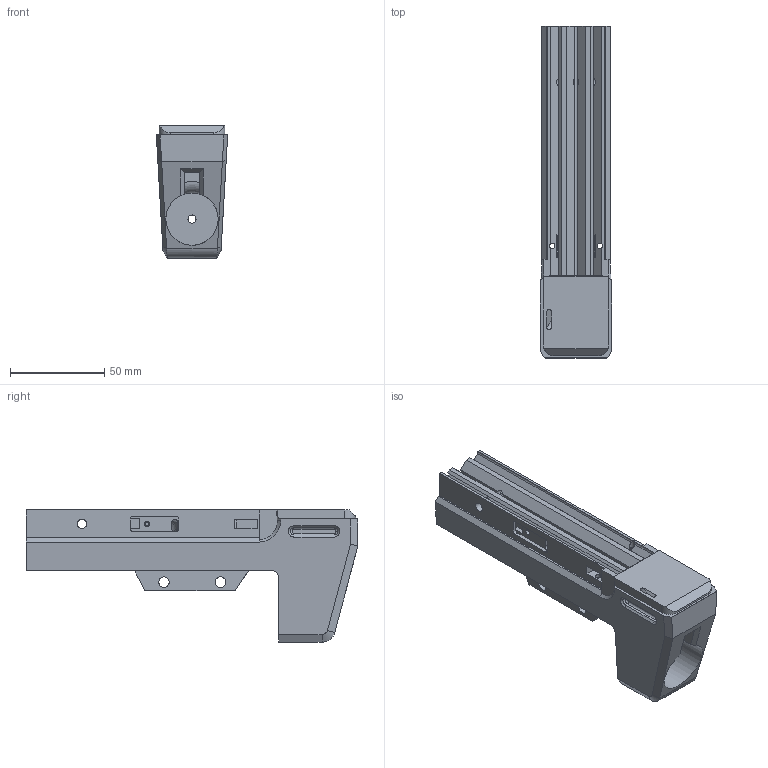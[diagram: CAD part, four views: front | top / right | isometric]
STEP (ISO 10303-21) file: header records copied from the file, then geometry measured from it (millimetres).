
FILE_DESCRIPTION(('HOOPS Exchange Step'),'2;1');
FILE_NAME('/private/var/mobile/Containers/Data/Application/B41F1AF9-3ED7-45D6-8FBD-F140B762F35E/tmp/export/temp_export','2026-08-08T08:59:42-05:00',('mobile'),('Shapr3D Limited'),'HOOPS Exchange 2026.3','Shapr3D','Authorized');
FILE_SCHEMA( ('AP242_MANAGED_MODEL_BASED_3D_ENGINEERING_MIM_LF {1 0 10303 442 1 1 4}') );
Length unit declared in the file: millimetre
Products named in the file (4): Lower hand guard; DONE; HG Bottom Front.step; root
Assembly tree (3 placements, depth 4):
  root
    HG Bottom Front.step
      DONE
        Lower hand guard
Bounding box: 37.89 x 176.32 x 70.2 mm (x, y, z)
Volume: 176718.9 mm3; surface area: 51416.8 mm2
Topology: 1 solids, 1 shells, 234 faces, 686 edges, 449 vertices
Faces by surface type: plane 144, cylinder 51, bspline 27, torus 8, cone 4
Full cylindrical faces by diameter (mm): 2 x2, 3 x6, 4.3 x1, 4.9 x4, 5 x2, 5.6 x2, 7.3 x1, 9 x1, 27.8 x1
Entity records: 16106 total; most frequent: CARTESIAN_POINT 9921, ORIENTED_EDGE 1372, DIRECTION 1113, EDGE_CURVE 686, VERTEX_POINT 449, VECTOR 433, LINE 433, AXIS2_PLACEMENT_3D 340
